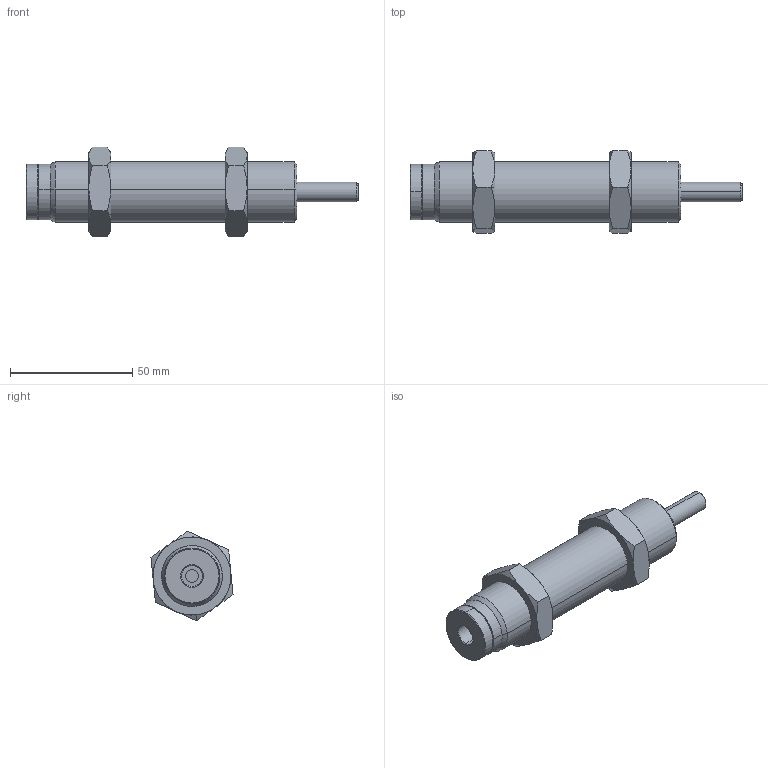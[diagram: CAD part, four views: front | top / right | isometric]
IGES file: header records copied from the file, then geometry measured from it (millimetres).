
Start section: SolidWorks IGES file using analytic representation for surfaces
Global section: file name: D:\IGS跡宒\AC2525-N(P2.0).IGS,1; native system: 5HSolidWorks 2013; preprocessor: SolidWorks 2013; author: Administrator; date: 160412.105918; units: inch
Bounding box: 136 x 33.66 x 36.77 mm (x, y, z)
Surface area: 15042.9 mm2 (no closed solid volume)
Topology: 0 solids, 0 shells, 90 faces, 1276 edges, 1276 vertices
Faces by surface type: revolution 68, bspline 22
